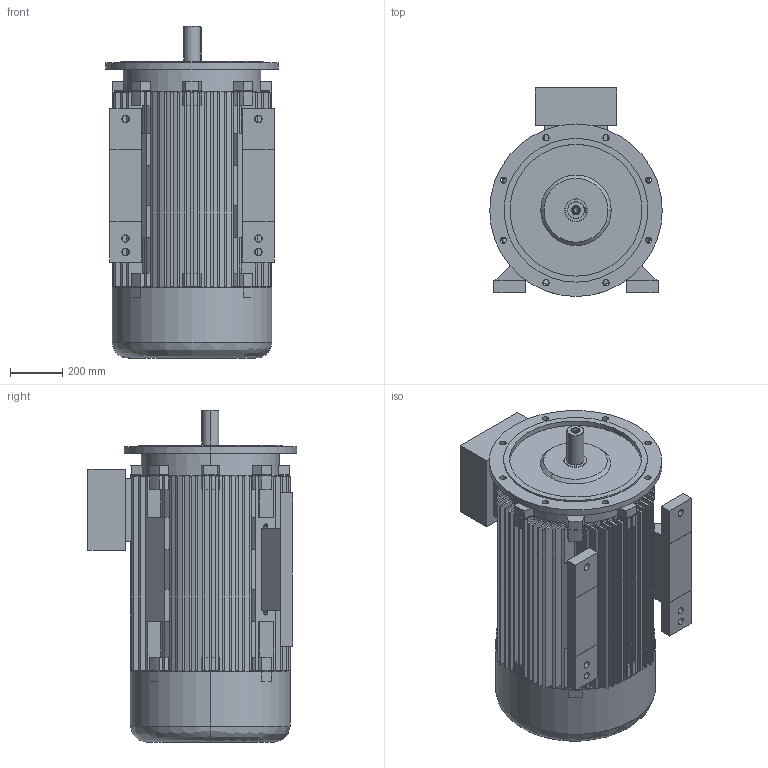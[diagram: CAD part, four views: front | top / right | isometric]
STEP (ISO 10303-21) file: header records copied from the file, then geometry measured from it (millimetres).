
FILE_DESCRIPTION (( 'STEP AP203' ), '1' );
FILE_NAME ('20.18380_C 7AZ 315L -2 B35 STANDK.STEP', '2018-05-18T11:40:43', ( '' ), ( '' ), 'SwSTEP 2.0', 'SolidWorks 2017', '' );
FILE_SCHEMA (( 'CONFIG_CONTROL_DESIGN' ));
Length unit declared in the file: millimetre
Products named in the file (1): 20.18380_C 7AZ 315L -2 B35 STANDK
Bounding box: 660 x 800 x 1270 mm (x, y, z)
Volume: 104406270.9 mm3; surface area: 11717592 mm2
Topology: 9 solids, 9 shells, 854 faces, 2296 edges, 1523 vertices
Faces by surface type: plane 680, cylinder 143, cone 18, bspline 13
Entity records: 27512 total; most frequent: CARTESIAN_POINT 5593, ORIENTED_EDGE 4588, DIRECTION 4460, EDGE_CURVE 2294, VECTOR 1720, LINE 1720, VERTEX_POINT 1523, AXIS2_PLACEMENT_3D 1370
